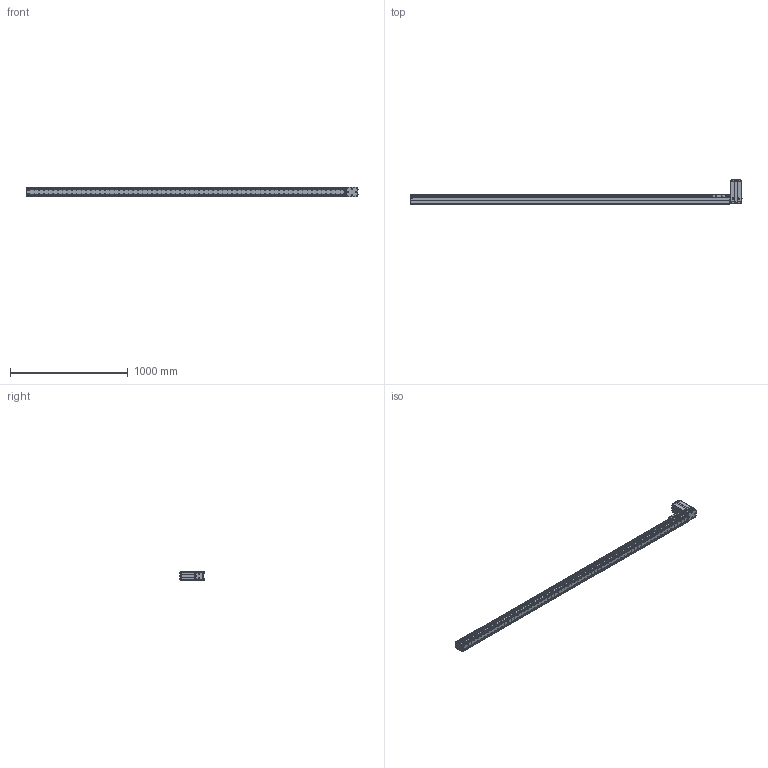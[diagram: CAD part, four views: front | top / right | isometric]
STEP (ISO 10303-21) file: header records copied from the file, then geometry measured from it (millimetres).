
FILE_DESCRIPTION((''),'2;1');
FILE_NAME('BE10_-BT-M_N-R0_IGS_PRT','2017-06-18T',(' '),(''),'PRO/ENGINEER BY PARAMETRIC TECHNOLOGY CORPORATION, 2015030','PRO/ENGINEER BY PARAMETRIC TECHNOLOGY CORPORATION, 2015030','');
FILE_SCHEMA(('CONFIG_CONTROL_DESIGN'));
Products named in the file (1): BE10_-BT-M_N-R0_IGS_PRT
Bounding box: 2820.8 x 204.72 x 78 mm (x, y, z)
Volume: 3528811.4 mm3; surface area: 2524599.9 mm2
Topology: 12 solids, 222 shells, 2517 faces, 6924 edges, 4637 vertices
Faces by surface type: cylinder 1268, plane 1086, cone 107, sphere 28, torus 25, bspline 3
Entity records: 82795 total; most frequent: CARTESIAN_POINT 16988, DIRECTION 14086, ORIENTED_EDGE 12872, EDGE_CURVE 6854, AXIS2_PLACEMENT_3D 5248, VERTEX_POINT 4633, VECTOR 3590, LINE 3590
